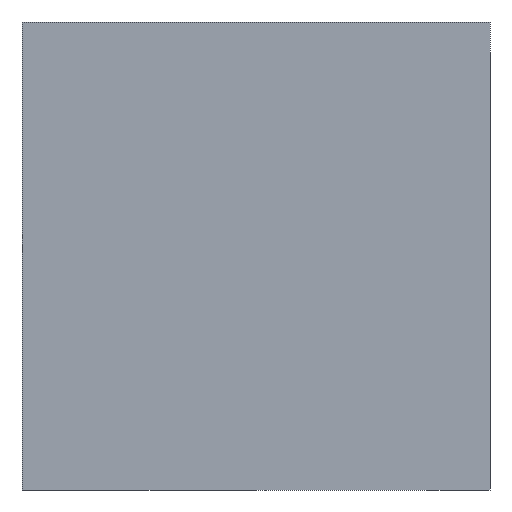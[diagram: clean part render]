
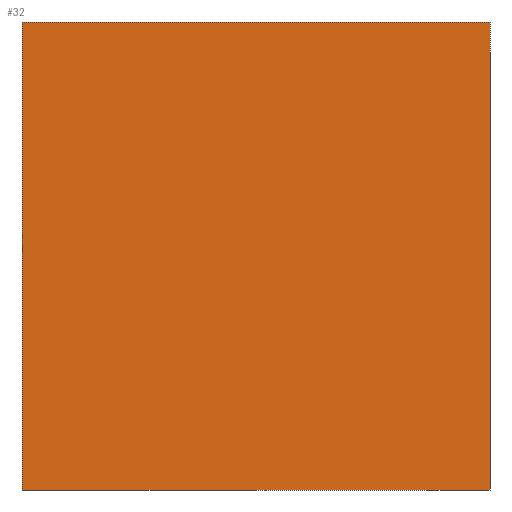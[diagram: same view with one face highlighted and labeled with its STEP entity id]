
A CAD part, left-side view. The second image highlights one B-rep face of the part: STEP entity #32.
In plain terms, the highlighted planar face has unit normal (-1, 0, 0).
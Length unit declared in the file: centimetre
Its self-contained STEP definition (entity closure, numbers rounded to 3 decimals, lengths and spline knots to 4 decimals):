
#32 = ADVANCED_FACE ( 'NONE', ( #179 ), #176, .F. ) ;
#33 = CARTESIAN_POINT ( 'NONE',  ( 0., 1000., 0. ) ) ;
#68 = CARTESIAN_POINT ( 'NONE',  ( 0., 1000., 0. ) ) ;
#70 = ORIENTED_EDGE ( 'NONE', *, *, #397, .T. ) ;
#92 = LINE ( 'NONE', #293, #205 ) ;
#93 = EDGE_CURVE ( 'NONE', #376, #391, #498, .T. ) ;
#123 = VECTOR ( 'NONE', #383, 100. ) ;
#134 = CARTESIAN_POINT ( 'NONE',  ( 0., 1000., 1000. ) ) ;
#167 = CARTESIAN_POINT ( 'NONE',  ( 0., 0., 1000. ) ) ;
#176 = PLANE ( 'NONE',  #468 ) ;
#179 = FACE_OUTER_BOUND ( 'NONE', #511, .T. ) ;
#199 = DIRECTION ( 'NONE',  ( 0., -1., 0. ) ) ;
#205 = VECTOR ( 'NONE', #453, 100. ) ;
#267 = VECTOR ( 'NONE', #199, 100. ) ;
#268 = LINE ( 'NONE', #269, #357 ) ;
#269 = CARTESIAN_POINT ( 'NONE',  ( 0., 0., 1000. ) ) ;
#281 = EDGE_CURVE ( 'NONE', #391, #466, #268, .T. ) ;
#293 = CARTESIAN_POINT ( 'NONE',  ( 0., 1000., 1000. ) ) ;
#321 = ORIENTED_EDGE ( 'NONE', *, *, #93, .F. ) ;
#326 = CARTESIAN_POINT ( 'NONE',  ( 0., 0., 0. ) ) ;
#333 = DIRECTION ( 'NONE',  ( 1., 0., 0. ) ) ;
#336 = CARTESIAN_POINT ( 'NONE',  ( 0., 1000., 1000. ) ) ;
#344 = DIRECTION ( 'NONE',  ( 0., 0., -1. ) ) ;
#357 = VECTOR ( 'NONE', #438, 100. ) ;
#376 = VERTEX_POINT ( 'NONE', #415 ) ;
#383 = DIRECTION ( 'NONE',  ( 0., -1., 0. ) ) ;
#391 = VERTEX_POINT ( 'NONE', #167 ) ;
#397 = EDGE_CURVE ( 'NONE', #376, #532, #92, .T. ) ;
#415 = CARTESIAN_POINT ( 'NONE',  ( 0., 1000., 1000. ) ) ;
#435 = ORIENTED_EDGE ( 'NONE', *, *, #281, .F. ) ;
#438 = DIRECTION ( 'NONE',  ( 0., 0., -1. ) ) ;
#450 = LINE ( 'NONE', #68, #267 ) ;
#453 = DIRECTION ( 'NONE',  ( 0., 0., -1. ) ) ;
#466 = VERTEX_POINT ( 'NONE', #326 ) ;
#468 = AXIS2_PLACEMENT_3D ( 'NONE', #134, #333, #344 ) ;
#472 = ORIENTED_EDGE ( 'NONE', *, *, #520, .T. ) ;
#498 = LINE ( 'NONE', #336, #123 ) ;
#511 = EDGE_LOOP ( 'NONE', ( #472, #435, #321, #70 ) ) ;
#520 = EDGE_CURVE ( 'NONE', #532, #466, #450, .T. ) ;
#532 = VERTEX_POINT ( 'NONE', #33 ) ;
